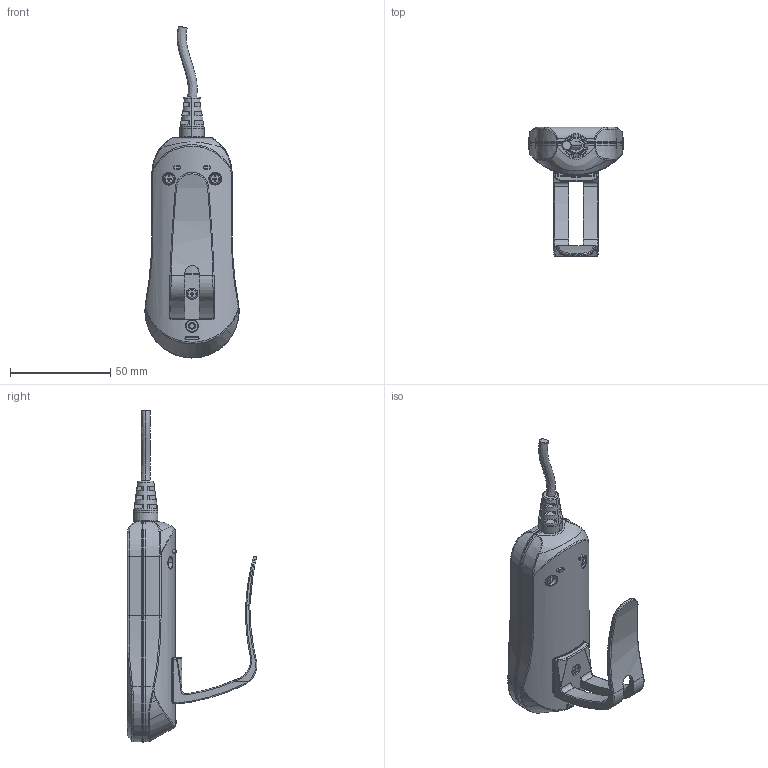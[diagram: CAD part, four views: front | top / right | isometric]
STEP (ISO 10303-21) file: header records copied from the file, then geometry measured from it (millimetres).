
FILE_DESCRIPTION((''),'2;1');
FILE_NAME('H2G_ASM','2016-04-25T',('user'),(''),'PRO/ENGINEER BY PARAMETRIC TECHNOLOGY CORPORATION, 2008090','PRO/ENGINEER BY PARAMETRIC TECHNOLOGY CORPORATION, 2008090','');
FILE_SCHEMA(('CONFIG_CONTROL_DESIGN'));
Length unit declared in the file: millimetre
Products named in the file (1): H2G_ASM
Bounding box: 47 x 64.62 x 165.56 mm (x, y, z)
Volume: 25538.9 mm3; surface area: 39231.4 mm2
Topology: 2 solids, 6 shells, 888 faces, 2234 edges, 1418 vertices
Faces by surface type: plane 395, cylinder 277, bspline 97, torus 70, cone 37, sphere 12
Entity records: 33988 total; most frequent: CARTESIAN_POINT 13147, ORIENTED_EDGE 4464, DIRECTION 4141, EDGE_CURVE 2234, AXIS2_PLACEMENT_3D 1508, VERTEX_POINT 1418, VECTOR 1125, LINE 1125
